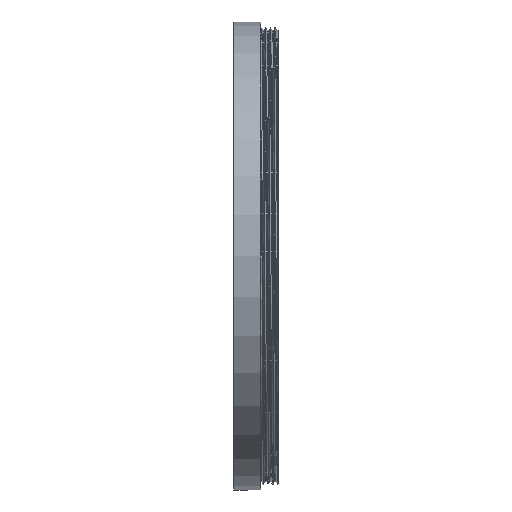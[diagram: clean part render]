
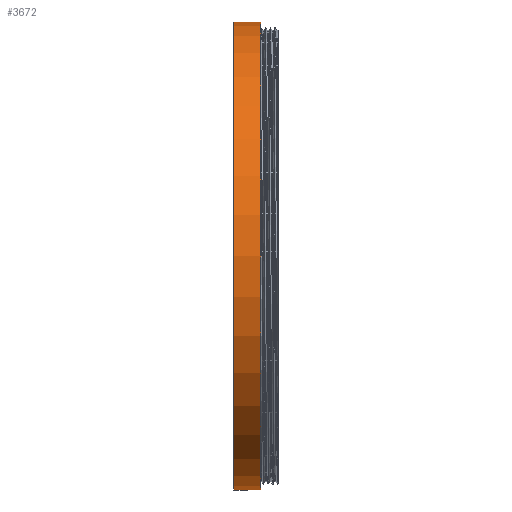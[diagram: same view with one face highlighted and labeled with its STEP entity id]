
A CAD part, left-side view. The second image highlights one B-rep face of the part: STEP entity #3672.
In plain terms, the highlighted cylindrical face has radius 36.9 mm (diameter 73.8 mm), a partial arc.
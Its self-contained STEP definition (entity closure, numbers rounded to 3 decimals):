
#124 = CARTESIAN_POINT ( 'NONE',  ( 0., 0., 36.9 ) ) ;
#151 = ORIENTED_EDGE ( 'NONE', *, *, #2610, .T. ) ;
#210 = VECTOR ( 'NONE', #441, 1000. ) ;
#375 = VECTOR ( 'NONE', #3009, 1000. ) ;
#441 = DIRECTION ( 'NONE',  ( 0., -1., 0. ) ) ;
#450 = DIRECTION ( 'NONE',  ( 0., -1., 0. ) ) ;
#658 = AXIS2_PLACEMENT_3D ( 'NONE', #3704, #3737, #1936 ) ;
#723 = ORIENTED_EDGE ( 'NONE', *, *, #2206, .T. ) ;
#789 = CYLINDRICAL_SURFACE ( 'NONE', #2528, 36.9 ) ;
#1087 = CARTESIAN_POINT ( 'NONE',  ( 0., 0., 0. ) ) ;
#1114 = DIRECTION ( 'NONE',  ( 0., -1., 0. ) ) ;
#1625 = CARTESIAN_POINT ( 'NONE',  ( 0., 7., 36.9 ) ) ;
#1626 = VERTEX_POINT ( 'NONE', #2895 ) ;
#1688 = ORIENTED_EDGE ( 'NONE', *, *, #3696, .F. ) ;
#1903 = CARTESIAN_POINT ( 'NONE',  ( 0., 2.75, -36.9 ) ) ;
#1936 = DIRECTION ( 'NONE',  ( 0., 0., -1. ) ) ;
#1957 = CARTESIAN_POINT ( 'NONE',  ( 0., 0., -36.9 ) ) ;
#1993 = AXIS2_PLACEMENT_3D ( 'NONE', #2926, #450, #2583 ) ;
#2137 = VERTEX_POINT ( 'NONE', #1625 ) ;
#2206 = EDGE_CURVE ( 'NONE', #1626, #3865, #2341, .T. ) ;
#2233 = CIRCLE ( 'NONE', #658, 36.9 ) ;
#2245 = EDGE_CURVE ( 'NONE', #3261, #3865, #2233, .T. ) ;
#2306 = ORIENTED_EDGE ( 'NONE', *, *, #2245, .F. ) ;
#2341 = LINE ( 'NONE', #1957, #375 ) ;
#2528 = AXIS2_PLACEMENT_3D ( 'NONE', #1087, #1114, #4301 ) ;
#2583 = DIRECTION ( 'NONE',  ( 0., 0., -1. ) ) ;
#2610 = EDGE_CURVE ( 'NONE', #2137, #1626, #4425, .T. ) ;
#2689 = CARTESIAN_POINT ( 'NONE',  ( 0., 2.75, 36.9 ) ) ;
#2895 = CARTESIAN_POINT ( 'NONE',  ( 0., 7., -36.9 ) ) ;
#2926 = CARTESIAN_POINT ( 'NONE',  ( 0., 7., 0. ) ) ;
#3009 = DIRECTION ( 'NONE',  ( 0., -1., 0. ) ) ;
#3261 = VERTEX_POINT ( 'NONE', #2689 ) ;
#3278 = EDGE_LOOP ( 'NONE', ( #1688, #151, #723, #2306 ) ) ;
#3672 = ADVANCED_FACE ( 'NONE', ( #4283 ), #789, .T. ) ;
#3696 = EDGE_CURVE ( 'NONE', #2137, #3261, #3933, .T. ) ;
#3704 = CARTESIAN_POINT ( 'NONE',  ( 0., 2.75, 0. ) ) ;
#3737 = DIRECTION ( 'NONE',  ( 0., -1., 0. ) ) ;
#3865 = VERTEX_POINT ( 'NONE', #1903 ) ;
#3933 = LINE ( 'NONE', #124, #210 ) ;
#4283 = FACE_OUTER_BOUND ( 'NONE', #3278, .T. ) ;
#4301 = DIRECTION ( 'NONE',  ( 0., 0., -1. ) ) ;
#4425 = CIRCLE ( 'NONE', #1993, 36.9 ) ;
